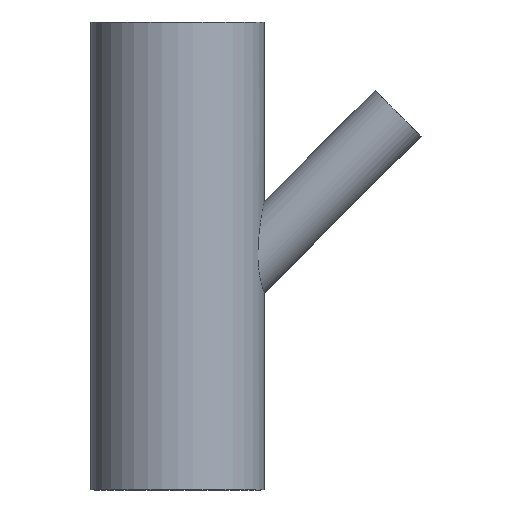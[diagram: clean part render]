
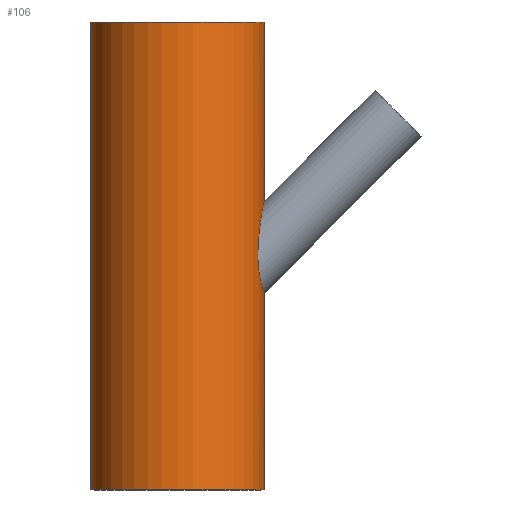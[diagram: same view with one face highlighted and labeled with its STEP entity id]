
A CAD part, front view. The second image highlights one B-rep face of the part: STEP entity #106.
In plain terms, the highlighted cylindrical face has radius 100 mm (diameter 200 mm), a full revolution.
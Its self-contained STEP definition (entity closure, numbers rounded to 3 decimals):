
#23=FACE_BOUND('',#47,.T.);
#24=FACE_BOUND('',#48,.T.);
#27=B_SPLINE_CURVE_WITH_KNOTS('',3,(#245,#246,#247,#248,#249,#250,#251,
#252,#253,#254,#255,#256,#257,#258,#259,#260,#261,#262,#263,#264,#265,#266,
#267,#268,#269,#270,#271,#272,#273,#274,#275,#276,#277,#278,#279,#280,#281,
#282,#283,#284,#285,#286,#287,#288,#289,#290,#291,#292,#293,#294,#295,#296,
#297,#298,#299,#300,#301,#302,#303,#304,#305,#306),.UNSPECIFIED.,.T.,.F.,
(4,2,2,2,2,2,2,2,2,2,2,2,2,2,2,2,2,2,2,2,2,2,2,2,2,2,2,2,2,2,4),(0.,1.144,
2.288,4.576,5.302,6.027,6.752,
7.477,8.202,8.927,9.652,10.377,
12.665,13.809,14.953,15.869,16.784,
17.699,18.614,19.303,19.993,20.682,
21.372,22.061,22.751,23.44,24.129,
25.044,25.96,26.875,27.79),
 .UNSPECIFIED.);
#33=FACE_OUTER_BOUND('',#46,.T.);
#46=EDGE_LOOP('',(#84));
#47=EDGE_LOOP('',(#85));
#48=EDGE_LOOP('',(#86));
#55=CIRCLE('',#137,100.);
#56=CIRCLE('',#139,100.);
#62=VERTEX_POINT('',#244);
#63=VERTEX_POINT('',#309);
#64=VERTEX_POINT('',#312);
#70=EDGE_CURVE('',#62,#62,#27,.T.);
#71=EDGE_CURVE('',#63,#63,#55,.T.);
#72=EDGE_CURVE('',#64,#64,#56,.T.);
#84=ORIENTED_EDGE('',*,*,#71,.T.);
#85=ORIENTED_EDGE('',*,*,#70,.T.);
#86=ORIENTED_EDGE('',*,*,#72,.F.);
#92=CYLINDRICAL_SURFACE('',#138,100.);
#106=ADVANCED_FACE('',(#33,#23,#24),#92,.T.);
#137=AXIS2_PLACEMENT_3D('',#310,#161,#162);
#138=AXIS2_PLACEMENT_3D('',#311,#163,#164);
#139=AXIS2_PLACEMENT_3D('',#313,#165,#166);
#161=DIRECTION('center_axis',(0.,0.,-1.));
#162=DIRECTION('ref_axis',(1.,0.,0.));
#163=DIRECTION('center_axis',(0.,0.,-1.));
#164=DIRECTION('ref_axis',(-1.,0.,0.));
#165=DIRECTION('center_axis',(0.,0.,-1.));
#166=DIRECTION('ref_axis',(1.,0.,0.));
#244=CARTESIAN_POINT('',(92.702,-37.5,272.702));
#245=CARTESIAN_POINT('Ctrl Pts',(92.702,-37.5,272.702));
#246=CARTESIAN_POINT('Ctrl Pts',(92.702,-37.5,276.516));
#247=CARTESIAN_POINT('Ctrl Pts',(92.823,-37.207,280.475));
#248=CARTESIAN_POINT('Ctrl Pts',(93.283,-36.038,288.441));
#249=CARTESIAN_POINT('Ctrl Pts',(93.622,-35.163,292.448));
#250=CARTESIAN_POINT('Ctrl Pts',(94.868,-31.718,304.192));
#251=CARTESIAN_POINT('Ctrl Pts',(96.006,-28.333,311.654));
#252=CARTESIAN_POINT('Ctrl Pts',(97.419,-22.619,319.794));
#253=CARTESIAN_POINT('Ctrl Pts',(97.774,-21.057,321.75));
#254=CARTESIAN_POINT('Ctrl Pts',(98.457,-17.588,325.383));
#255=CARTESIAN_POINT('Ctrl Pts',(98.785,-15.68,327.059));
#256=CARTESIAN_POINT('Ctrl Pts',(99.349,-11.582,329.885));
#257=CARTESIAN_POINT('Ctrl Pts',(99.585,-9.387,331.036));
#258=CARTESIAN_POINT('Ctrl Pts',(99.911,-4.804,332.61));
#259=CARTESIAN_POINT('Ctrl Pts',(100.,-2.417,333.033));
#260=CARTESIAN_POINT('Ctrl Pts',(100.,2.417,333.033));
#261=CARTESIAN_POINT('Ctrl Pts',(99.911,4.804,332.61));
#262=CARTESIAN_POINT('Ctrl Pts',(99.585,9.387,331.036));
#263=CARTESIAN_POINT('Ctrl Pts',(99.349,11.582,329.885));
#264=CARTESIAN_POINT('Ctrl Pts',(98.785,15.68,327.059));
#265=CARTESIAN_POINT('Ctrl Pts',(98.457,17.588,325.383));
#266=CARTESIAN_POINT('Ctrl Pts',(97.774,21.057,321.75));
#267=CARTESIAN_POINT('Ctrl Pts',(97.419,22.619,319.794));
#268=CARTESIAN_POINT('Ctrl Pts',(96.006,28.333,311.654));
#269=CARTESIAN_POINT('Ctrl Pts',(94.868,31.718,304.192));
#270=CARTESIAN_POINT('Ctrl Pts',(93.622,35.163,292.448));
#271=CARTESIAN_POINT('Ctrl Pts',(93.283,36.038,288.441));
#272=CARTESIAN_POINT('Ctrl Pts',(92.823,37.207,280.475));
#273=CARTESIAN_POINT('Ctrl Pts',(92.702,37.5,276.516));
#274=CARTESIAN_POINT('Ctrl Pts',(92.702,37.5,269.652));
#275=CARTESIAN_POINT('Ctrl Pts',(92.78,37.312,266.47));
#276=CARTESIAN_POINT('Ctrl Pts',(93.129,36.431,260.102));
#277=CARTESIAN_POINT('Ctrl Pts',(93.402,35.738,256.917));
#278=CARTESIAN_POINT('Ctrl Pts',(94.129,33.776,250.794));
#279=CARTESIAN_POINT('Ctrl Pts',(94.584,32.505,247.853));
#280=CARTESIAN_POINT('Ctrl Pts',(95.597,29.392,242.431));
#281=CARTESIAN_POINT('Ctrl Pts',(96.154,27.549,239.952));
#282=CARTESIAN_POINT('Ctrl Pts',(97.112,23.912,236.149));
#283=CARTESIAN_POINT('Ctrl Pts',(97.539,22.138,234.609));
#284=CARTESIAN_POINT('Ctrl Pts',(98.341,18.247,231.895));
#285=CARTESIAN_POINT('Ctrl Pts',(98.716,16.13,230.721));
#286=CARTESIAN_POINT('Ctrl Pts',(99.34,11.691,228.837));
#287=CARTESIAN_POINT('Ctrl Pts',(99.588,9.365,228.125));
#288=CARTESIAN_POINT('Ctrl Pts',(99.919,4.668,227.19));
#289=CARTESIAN_POINT('Ctrl Pts',(100.,2.298,226.967));
#290=CARTESIAN_POINT('Ctrl Pts',(100.,-2.298,226.967));
#291=CARTESIAN_POINT('Ctrl Pts',(99.919,-4.668,227.19));
#292=CARTESIAN_POINT('Ctrl Pts',(99.588,-9.365,228.125));
#293=CARTESIAN_POINT('Ctrl Pts',(99.34,-11.691,228.837));
#294=CARTESIAN_POINT('Ctrl Pts',(98.716,-16.13,230.721));
#295=CARTESIAN_POINT('Ctrl Pts',(98.341,-18.247,231.895));
#296=CARTESIAN_POINT('Ctrl Pts',(97.539,-22.138,234.609));
#297=CARTESIAN_POINT('Ctrl Pts',(97.112,-23.912,236.149));
#298=CARTESIAN_POINT('Ctrl Pts',(96.154,-27.549,239.952));
#299=CARTESIAN_POINT('Ctrl Pts',(95.597,-29.392,242.431));
#300=CARTESIAN_POINT('Ctrl Pts',(94.584,-32.505,247.853));
#301=CARTESIAN_POINT('Ctrl Pts',(94.129,-33.776,250.794));
#302=CARTESIAN_POINT('Ctrl Pts',(93.402,-35.738,256.917));
#303=CARTESIAN_POINT('Ctrl Pts',(93.129,-36.431,260.102));
#304=CARTESIAN_POINT('Ctrl Pts',(92.78,-37.312,266.47));
#305=CARTESIAN_POINT('Ctrl Pts',(92.702,-37.5,269.652));
#306=CARTESIAN_POINT('Ctrl Pts',(92.702,-37.5,272.702));
#309=CARTESIAN_POINT('',(-100.,0.,540.));
#310=CARTESIAN_POINT('Origin',(0.,0.,540.));
#311=CARTESIAN_POINT('Origin',(0.,0.,270.));
#312=CARTESIAN_POINT('',(-100.,0.,0.));
#313=CARTESIAN_POINT('Origin',(0.,0.,0.));
